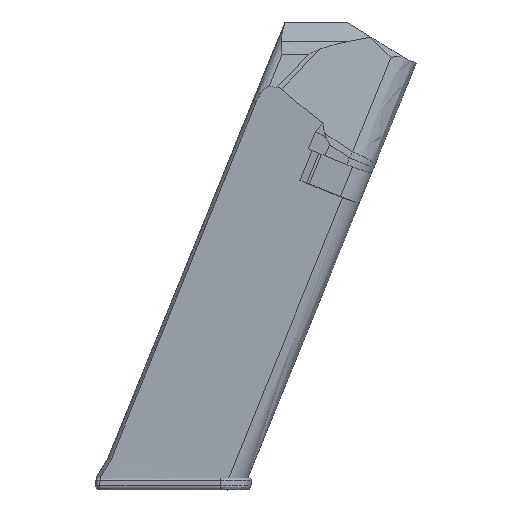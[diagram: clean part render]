
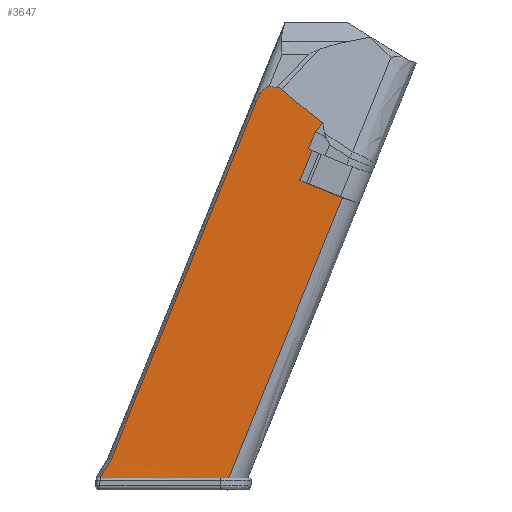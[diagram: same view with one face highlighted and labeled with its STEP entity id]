
A CAD part, top view. The second image highlights one B-rep face of the part: STEP entity #3647.
In plain terms, the highlighted cylindrical face has radius 941.89 mm (diameter 1883.78 mm), a partial arc.
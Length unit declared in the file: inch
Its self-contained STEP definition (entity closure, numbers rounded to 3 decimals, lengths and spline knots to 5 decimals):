
#132=B_SPLINE_CURVE_WITH_KNOTS('',3,(#5139,#5140,#5141,#5142,#5143,#5144,
#5145,#5146),.UNSPECIFIED.,.F.,.F.,(4,2,2,4),(10.49861,10.53159,
10.59683,10.6168),.UNSPECIFIED.);
#133=B_SPLINE_CURVE_WITH_KNOTS('',3,(#5150,#5151,#5152,#5153,#5154,#5155,
#5156,#5157,#5158,#5159,#5160,#5161),.UNSPECIFIED.,.F.,.F.,(4,2,2,2,2,4),
(1.50054,1.51328,1.56496,1.65646,1.74795,
1.76028),.UNSPECIFIED.);
#134=B_SPLINE_CURVE_WITH_KNOTS('',3,(#5163,#5164,#5165,#5166,#5167,#5168),
 .UNSPECIFIED.,.F.,.F.,(4,2,4),(-0.2198,-0.1083,0.),
 .UNSPECIFIED.);
#135=B_SPLINE_CURVE_WITH_KNOTS('',3,(#5172,#5173,#5174,#5175),
 .UNSPECIFIED.,.F.,.F.,(4,4),(10.17278,10.65762),
 .UNSPECIFIED.);
#242=(
BOUNDED_CURVE()
B_SPLINE_CURVE(2,(#5114,#5115,#5116),.UNSPECIFIED.,.F.,.F.)
B_SPLINE_CURVE_WITH_KNOTS((3,3),(19.52978,20.31634),
 .UNSPECIFIED.)
CURVE()
GEOMETRIC_REPRESENTATION_ITEM()
RATIONAL_B_SPLINE_CURVE((1.,1.,1.))
REPRESENTATION_ITEM('')
);
#255=ELLIPSE('',#3895,37.23056,37.08227);
#261=ELLIPSE('',#3903,37.23056,37.08227);
#262=ELLIPSE('',#3906,141.25472,37.08227);
#263=ELLIPSE('',#3907,279.84842,37.08227);
#264=ELLIPSE('',#3908,218.6658,37.08227);
#265=ELLIPSE('',#3909,40.01527,37.08227);
#375=CYLINDRICAL_SURFACE('',#3905,37.08227);
#547=FACE_OUTER_BOUND('',#767,.T.);
#767=EDGE_LOOP('',(#2470,#2471,#2472,#2473,#2474,#2475,#2476,#2477,#2478,
#2479,#2480,#2481,#2482,#2483));
#993=LINE('',#5133,#1266);
#994=LINE('',#5170,#1267);
#995=LINE('',#5178,#1268);
#1266=VECTOR('',#4246,0.3937);
#1267=VECTOR('',#4253,0.3937);
#1268=VECTOR('',#4256,0.3937);
#1533=VERTEX_POINT('',#5102);
#1534=VERTEX_POINT('',#5104);
#1537=VERTEX_POINT('',#5112);
#1542=VERTEX_POINT('',#5126);
#1543=VERTEX_POINT('',#5132);
#1544=VERTEX_POINT('',#5134);
#1545=VERTEX_POINT('',#5136);
#1546=VERTEX_POINT('',#5138);
#1547=VERTEX_POINT('',#5147);
#1548=VERTEX_POINT('',#5149);
#1549=VERTEX_POINT('',#5162);
#1550=VERTEX_POINT('',#5169);
#1551=VERTEX_POINT('',#5171);
#1552=VERTEX_POINT('',#5176);
#1888=EDGE_CURVE('',#1533,#1534,#255,.F.);
#1893=EDGE_CURVE('',#1537,#1533,#242,.T.);
#1899=EDGE_CURVE('',#1537,#1542,#261,.F.);
#1901=EDGE_CURVE('',#1542,#1543,#993,.T.);
#1902=EDGE_CURVE('',#1543,#1544,#262,.T.);
#1903=EDGE_CURVE('',#1544,#1545,#263,.T.);
#1904=EDGE_CURVE('',#1545,#1546,#132,.T.);
#1905=EDGE_CURVE('',#1546,#1547,#264,.T.);
#1906=EDGE_CURVE('',#1547,#1548,#133,.T.);
#1907=EDGE_CURVE('',#1548,#1549,#134,.T.);
#1908=EDGE_CURVE('',#1550,#1549,#994,.T.);
#1909=EDGE_CURVE('',#1550,#1551,#135,.T.);
#1910=EDGE_CURVE('',#1551,#1552,#265,.T.);
#1911=EDGE_CURVE('',#1534,#1552,#995,.T.);
#2470=ORIENTED_EDGE('',*,*,#1901,.T.);
#2471=ORIENTED_EDGE('',*,*,#1902,.T.);
#2472=ORIENTED_EDGE('',*,*,#1903,.T.);
#2473=ORIENTED_EDGE('',*,*,#1904,.T.);
#2474=ORIENTED_EDGE('',*,*,#1905,.T.);
#2475=ORIENTED_EDGE('',*,*,#1906,.T.);
#2476=ORIENTED_EDGE('',*,*,#1907,.T.);
#2477=ORIENTED_EDGE('',*,*,#1908,.F.);
#2478=ORIENTED_EDGE('',*,*,#1909,.T.);
#2479=ORIENTED_EDGE('',*,*,#1910,.T.);
#2480=ORIENTED_EDGE('',*,*,#1911,.F.);
#2481=ORIENTED_EDGE('',*,*,#1888,.F.);
#2482=ORIENTED_EDGE('',*,*,#1893,.F.);
#2483=ORIENTED_EDGE('',*,*,#1899,.T.);
#3647=ADVANCED_FACE('',(#547),#375,.T.);
#3895=AXIS2_PLACEMENT_3D('',#5105,#4219,#4220);
#3903=AXIS2_PLACEMENT_3D('',#5128,#4239,#4240);
#3905=AXIS2_PLACEMENT_3D('',#5131,#4244,#4245);
#3906=AXIS2_PLACEMENT_3D('',#5135,#4247,#4248);
#3907=AXIS2_PLACEMENT_3D('',#5137,#4249,#4250);
#3908=AXIS2_PLACEMENT_3D('',#5148,#4251,#4252);
#3909=AXIS2_PLACEMENT_3D('',#5177,#4254,#4255);
#4219=DIRECTION('center_axis',(-0.375,-0.923,-0.089));
#4220=DIRECTION('ref_axis',(0.035,0.082,-0.996));
#4239=DIRECTION('center_axis',(0.375,0.923,0.089));
#4240=DIRECTION('ref_axis',(0.035,0.082,-0.996));
#4244=DIRECTION('center_axis',(-0.376,-0.927,0.));
#4245=DIRECTION('ref_axis',(0.031,-0.013,-0.999));
#4246=DIRECTION('',(0.376,0.927,0.));
#4247=DIRECTION('center_axis',(-0.668,0.554,0.497));
#4248=DIRECTION('ref_axis',(0.572,0.809,-0.135));
#4249=DIRECTION('center_axis',(-0.075,-0.113,-0.991));
#4250=DIRECTION('ref_axis',(0.37,0.92,-0.132));
#4251=DIRECTION('center_axis',(0.,-0.183,-0.983));
#4252=DIRECTION('ref_axis',(0.382,0.909,-0.169));
#4253=DIRECTION('',(0.376,0.927,0.));
#4254=DIRECTION('center_axis',(0.,1.,0.));
#4255=DIRECTION('ref_axis',(1.,0.,0.));
#4256=DIRECTION('',(-0.376,-0.927,0.));
#5102=CARTESIAN_POINT('',(2.54913,2.77857,0.43934));
#5104=CARTESIAN_POINT('',(2.95423,2.61414,0.43956));
#5105=CARTESIAN_POINT('Origin',(4.01788,5.76497,-36.64217));
#5112=CARTESIAN_POINT('',(2.66623,3.06522,0.43934));
#5114=CARTESIAN_POINT('Ctrl Pts',(2.66623,3.06522,0.43934));
#5115=CARTESIAN_POINT('Ctrl Pts',(2.60768,2.9219,0.43934));
#5116=CARTESIAN_POINT('Ctrl Pts',(2.54913,2.77857,0.43934));
#5126=CARTESIAN_POINT('',(2.6314,3.07938,0.43908));
#5128=CARTESIAN_POINT('Origin',(4.13438,6.05186,-36.64217));
#5131=CARTESIAN_POINT('Origin',(1.67249,-0.01103,-36.64217));
#5132=CARTESIAN_POINT('',(2.6991,3.24612,0.43908));
#5133=CARTESIAN_POINT('',(1.41841,0.09214,0.43908));
#5134=CARTESIAN_POINT('',(2.76846,3.32943,0.43931));
#5135=CARTESIAN_POINT('Origin',(29.69409,68.99784,-36.64217));
#5136=CARTESIAN_POINT('',(2.37377,3.64876,0.43297));
#5137=CARTESIAN_POINT('Origin',(107.28904,260.09115,-36.64217));
#5138=CARTESIAN_POINT('',(2.32941,3.66652,0.432));
#5139=CARTESIAN_POINT('Ctrl Pts',(2.37377,3.64876,0.43297));
#5140=CARTESIAN_POINT('Ctrl Pts',(2.37039,3.65176,0.43288));
#5141=CARTESIAN_POINT('Ctrl Pts',(2.36661,3.65442,0.43279));
#5142=CARTESIAN_POINT('Ctrl Pts',(2.35463,3.66109,0.43252));
#5143=CARTESIAN_POINT('Ctrl Pts',(2.34567,3.66386,0.43233));
#5144=CARTESIAN_POINT('Ctrl Pts',(2.33467,3.66585,0.43211));
#5145=CARTESIAN_POINT('Ctrl Pts',(2.33205,3.66623,0.43205));
#5146=CARTESIAN_POINT('Ctrl Pts',(2.32941,3.66652,0.432));
#5147=CARTESIAN_POINT('',(2.25454,3.67508,0.43041));
#5148=CARTESIAN_POINT('Origin',(84.02613,202.80153,-36.64217));
#5149=CARTESIAN_POINT('',(2.17575,3.60687,0.4293));
#5150=CARTESIAN_POINT('Ctrl Pts',(2.25454,3.67508,0.43041));
#5151=CARTESIAN_POINT('Ctrl Pts',(2.25276,3.6753,0.43037));
#5152=CARTESIAN_POINT('Ctrl Pts',(2.25094,3.67522,0.43033));
#5153=CARTESIAN_POINT('Ctrl Pts',(2.24258,3.67402,0.43017));
#5154=CARTESIAN_POINT('Ctrl Pts',(2.23551,3.66999,0.43005));
#5155=CARTESIAN_POINT('Ctrl Pts',(2.22019,3.65911,0.42981));
#5156=CARTESIAN_POINT('Ctrl Pts',(2.21151,3.65039,0.4297));
#5157=CARTESIAN_POINT('Ctrl Pts',(2.19469,3.63166,0.4295));
#5158=CARTESIAN_POINT('Ctrl Pts',(2.18664,3.62154,0.42941));
#5159=CARTESIAN_POINT('Ctrl Pts',(2.17783,3.6097,0.42932));
#5160=CARTESIAN_POINT('Ctrl Pts',(2.17679,3.60829,0.42931));
#5161=CARTESIAN_POINT('Ctrl Pts',(2.17575,3.60687,0.4293));
#5162=CARTESIAN_POINT('',(2.13438,3.53028,0.42907));
#5163=CARTESIAN_POINT('Ctrl Pts',(2.17575,3.60687,0.4293));
#5164=CARTESIAN_POINT('Ctrl Pts',(2.16713,3.59507,0.42921));
#5165=CARTESIAN_POINT('Ctrl Pts',(2.15931,3.58211,0.42916));
#5166=CARTESIAN_POINT('Ctrl Pts',(2.14581,3.55663,0.42908));
#5167=CARTESIAN_POINT('Ctrl Pts',(2.13972,3.54345,0.42907));
#5168=CARTESIAN_POINT('Ctrl Pts',(2.13438,3.53028,0.42907));
#5169=CARTESIAN_POINT('',(0.74867,0.11769,0.42907));
#5170=CARTESIAN_POINT('',(0.83456,0.32922,0.42907));
#5171=CARTESIAN_POINT('',(0.64187,-0.05507,0.42822));
#5172=CARTESIAN_POINT('Ctrl Pts',(0.74867,0.11769,0.42907));
#5173=CARTESIAN_POINT('Ctrl Pts',(0.71292,0.05986,
0.42879));
#5174=CARTESIAN_POINT('Ctrl Pts',(0.67732,0.00227,
0.42851));
#5175=CARTESIAN_POINT('Ctrl Pts',(0.64187,-0.05507,
0.42822));
#5176=CARTESIAN_POINT('',(1.87014,-0.05564,0.43956));
#5177=CARTESIAN_POINT('Origin',(1.65442,-0.05554,-36.64217));
#5178=CARTESIAN_POINT('',(1.85772,-0.08624,0.43956));
